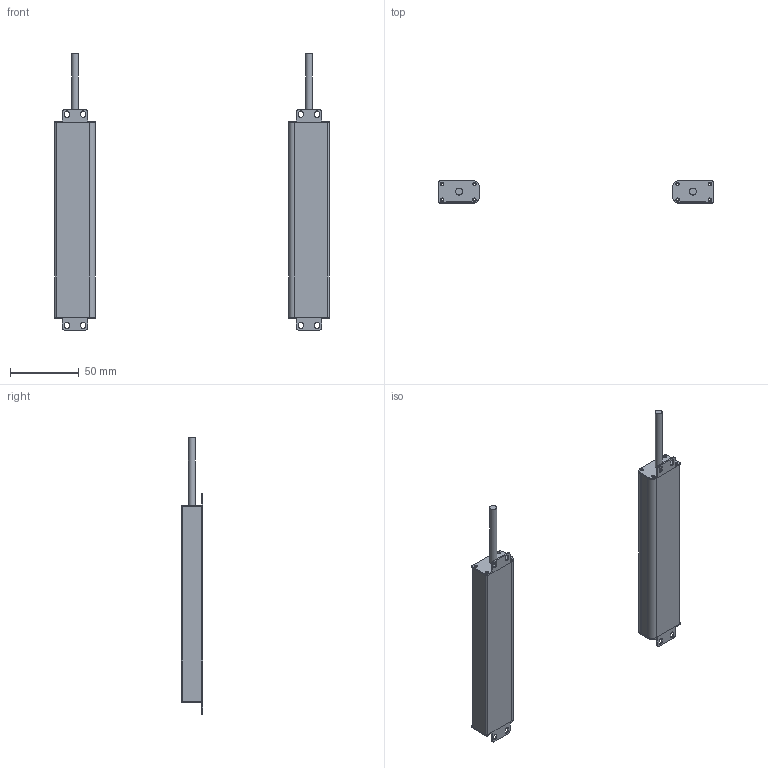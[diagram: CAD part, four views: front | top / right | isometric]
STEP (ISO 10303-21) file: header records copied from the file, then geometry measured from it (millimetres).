
FILE_DESCRIPTION(/* description */ (''),/* implementation_level */ '2;1');
FILE_NAME(/* name */ '1410（16X30w).stp',/* time_stamp */ '2020-10-19T13:46:56+08:00',/* author */ (''),/* organization */ (''),/* preprocessor_version */ 'ST-DEVELOPER v16',/* originating_system */ 'SIEMENS PLM Software NX 10.0',/* authorisation */ '');
FILE_SCHEMA (('AP203_CONFIGURATION_CONTROLLED_3D_DESIGN_OF_MECHANICAL_PARTS_AND_ASSEMBLIES_MIM_LF { 1 0 10303 403 2 1 2}'));
Length unit declared in the file: millimetre
Products named in the file (1): Admi12747C22tc0g
Bounding box: 200 x 16 x 201.5 mm (x, y, z)
Volume: 44278.5 mm3; surface area: 66307 mm2
Topology: 10 solids, 10 shells, 296 faces, 830 edges, 554 vertices
Faces by surface type: plane 160, cylinder 136
Full cylindrical faces by diameter (mm): 5 x2
Entity records: 9760 total; most frequent: DIRECTION 1692, CARTESIAN_POINT 1675, ORIENTED_EDGE 1652, EDGE_CURVE 826, AXIS2_PLACEMENT_3D 569, LINE 554, VECTOR 554, VERTEX_POINT 552
